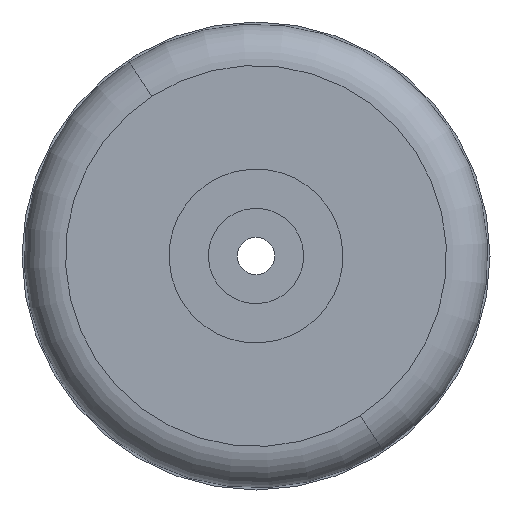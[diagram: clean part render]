
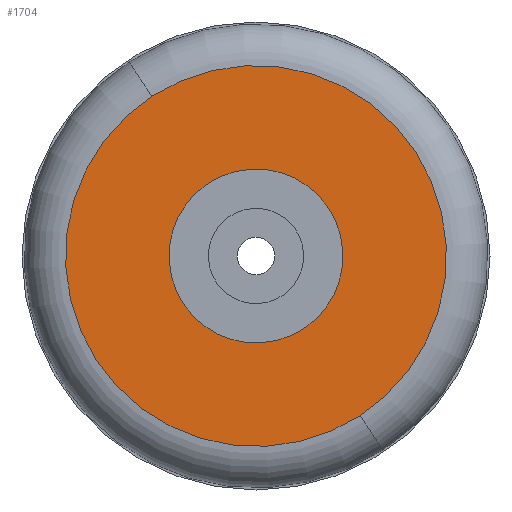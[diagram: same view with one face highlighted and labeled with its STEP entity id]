
A CAD part, front view. The second image highlights one B-rep face of the part: STEP entity #1704.
In plain terms, the highlighted planar face has unit normal (0, -1, 0) as drawn and (0, 1, 0) by its records, which use the part's own axes.
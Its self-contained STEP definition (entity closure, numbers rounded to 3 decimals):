
#27 = CARTESIAN_POINT ( 'NONE',  ( 0., 21., 0. ) ) ;
#42 = CIRCLE ( 'NONE', #10879, 10.5 ) ;
#315 = CARTESIAN_POINT ( 'NONE',  ( 0., 21., 23. ) ) ;
#482 = AXIS2_PLACEMENT_3D ( 'NONE', #27, #1328, #4656 ) ;
#864 = EDGE_CURVE ( 'NONE', #1935, #2083, #4105, .T. ) ;
#969 = CARTESIAN_POINT ( 'NONE',  ( 0., 21., -23. ) ) ;
#1328 = DIRECTION ( 'NONE',  ( 0., 1., 0. ) ) ;
#1423 = CIRCLE ( 'NONE', #482, 23. ) ;
#1675 = ORIENTED_EDGE ( 'NONE', *, *, #1926, .T. ) ;
#1704 = ADVANCED_FACE ( 'NONE', ( #5950, #3183 ), #6005, .F. ) ;
#1903 = ORIENTED_EDGE ( 'NONE', *, *, #5856, .F. ) ;
#1926 = EDGE_CURVE ( 'NONE', #3139, #6424, #1423, .T. ) ;
#1935 = VERTEX_POINT ( 'NONE', #2751 ) ;
#1952 = DIRECTION ( 'NONE',  ( 0., 1., 0. ) ) ;
#2083 = VERTEX_POINT ( 'NONE', #3099 ) ;
#2751 = CARTESIAN_POINT ( 'NONE',  ( 0., 21., -10.5 ) ) ;
#3099 = CARTESIAN_POINT ( 'NONE',  ( 0., 21., 10.5 ) ) ;
#3139 = VERTEX_POINT ( 'NONE', #315 ) ;
#3183 = FACE_BOUND ( 'NONE', #10958, .T. ) ;
#3204 = AXIS2_PLACEMENT_3D ( 'NONE', #11144, #10878, #10707 ) ;
#3248 = EDGE_CURVE ( 'NONE', #6424, #3139, #5151, .T. ) ;
#3321 = CARTESIAN_POINT ( 'NONE',  ( 0., 21., 0. ) ) ;
#4105 = CIRCLE ( 'NONE', #5308, 10.5 ) ;
#4286 = DIRECTION ( 'NONE',  ( 0., 0., 1. ) ) ;
#4297 = DIRECTION ( 'NONE',  ( 0., 1., 0. ) ) ;
#4656 = DIRECTION ( 'NONE',  ( 0., 0., -1. ) ) ;
#5151 = CIRCLE ( 'NONE', #7002, 23. ) ;
#5308 = AXIS2_PLACEMENT_3D ( 'NONE', #6620, #1952, #7407 ) ;
#5856 = EDGE_CURVE ( 'NONE', #2083, #1935, #42, .T. ) ;
#5950 = FACE_OUTER_BOUND ( 'NONE', #8045, .T. ) ;
#6005 = PLANE ( 'NONE',  #3204 ) ;
#6424 = VERTEX_POINT ( 'NONE', #969 ) ;
#6620 = CARTESIAN_POINT ( 'NONE',  ( 0., 21., 0. ) ) ;
#7002 = AXIS2_PLACEMENT_3D ( 'NONE', #9725, #4297, #10632 ) ;
#7407 = DIRECTION ( 'NONE',  ( 0., 0., 1. ) ) ;
#8045 = EDGE_LOOP ( 'NONE', ( #9867, #1675 ) ) ;
#9717 = DIRECTION ( 'NONE',  ( 0., 1., 0. ) ) ;
#9725 = CARTESIAN_POINT ( 'NONE',  ( 0., 21., 0. ) ) ;
#9867 = ORIENTED_EDGE ( 'NONE', *, *, #3248, .T. ) ;
#10632 = DIRECTION ( 'NONE',  ( 0., 0., -1. ) ) ;
#10707 = DIRECTION ( 'NONE',  ( 0., 0., -1. ) ) ;
#10878 = DIRECTION ( 'NONE',  ( 0., -1., 0. ) ) ;
#10879 = AXIS2_PLACEMENT_3D ( 'NONE', #3321, #9717, #4286 ) ;
#10958 = EDGE_LOOP ( 'NONE', ( #1903, #11663 ) ) ;
#11144 = CARTESIAN_POINT ( 'NONE',  ( 28., 21., 0. ) ) ;
#11663 = ORIENTED_EDGE ( 'NONE', *, *, #864, .F. ) ;
